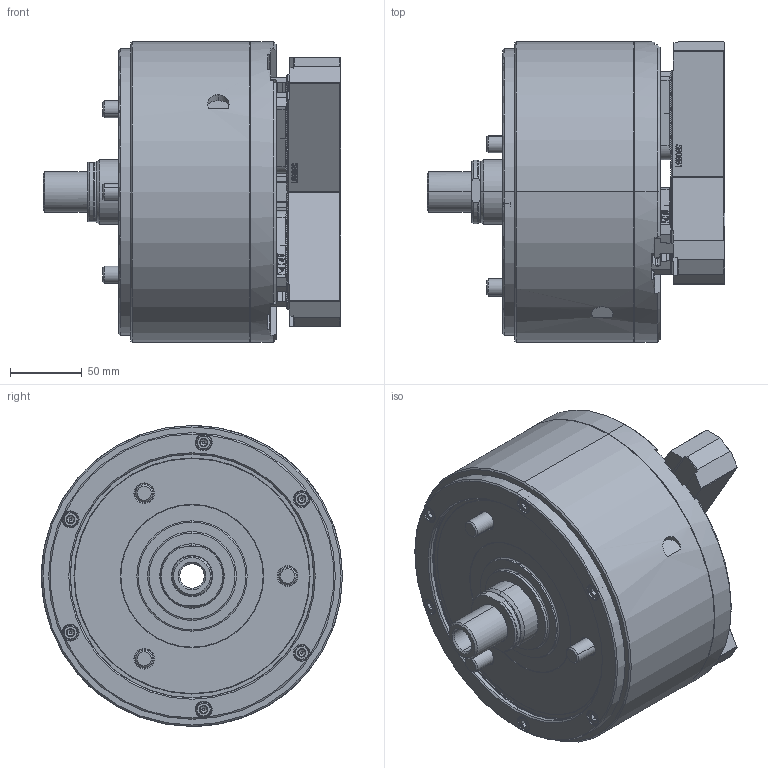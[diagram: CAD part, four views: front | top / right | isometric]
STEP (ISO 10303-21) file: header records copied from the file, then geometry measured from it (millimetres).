
FILE_DESCRIPTION (( 'STEP AP214' ), '1' );
FILE_NAME ('DL208_UC_ID.STEP', '2019-11-12T03:57:19', ( '' ), ( '' ), 'SwSTEP 2.0', 'SolidWorks 2017', '' );
FILE_SCHEMA (( 'AUTOMOTIVE_DESIGN' ));
Length unit declared in the file: millimetre
Products named in the file (10): 結合_ID; 0030112030; 61P451466; 61P304291; DL208_UC_ID
Assembly tree (13 placements, depth 2):
  DL208_UC_ID
    61P304291  x3
    61P451466  x3
    0030112030
    0030112030
    0030112030
    0030112030
    0030112030
    0030112030
    結合_ID
Bounding box: 207.69 x 210 x 210 mm (x, y, z)
Volume: 4011007.5 mm3; surface area: 312929.2 mm2
Topology: 13 solids, 13 shells, 7050 faces, 19490 edges, 12762 vertices
Faces by surface type: plane 4010, cylinder 1456, bspline 1189, cone 357, torus 38
Entity records: 208924 total; most frequent: CARTESIAN_POINT 78478, ORIENTED_EDGE 30332, DIRECTION 21819, EDGE_CURVE 15166, LINE 10235, VECTOR 10235, VERTEX_POINT 9930, EDGE_LOOP 5900
